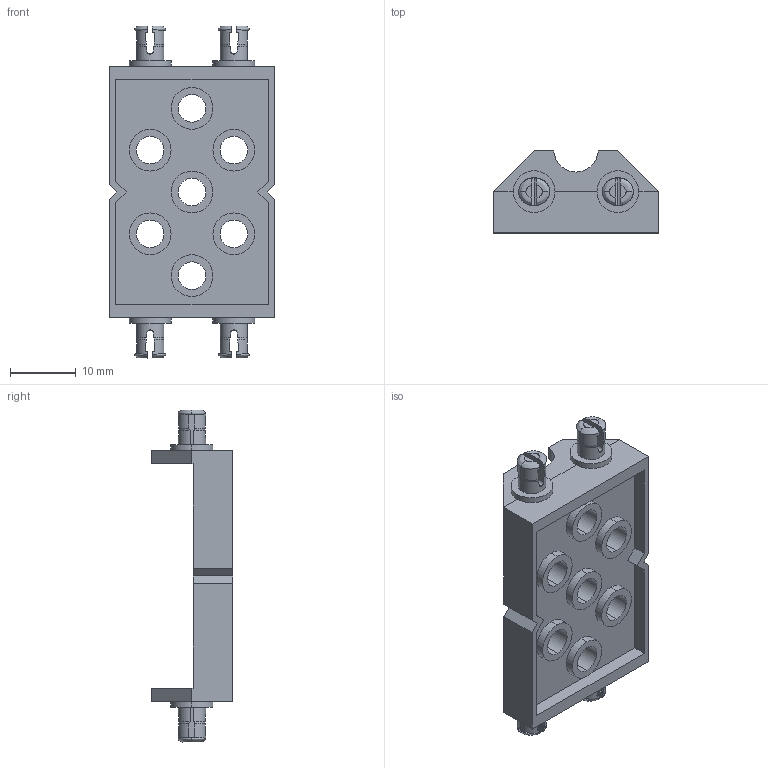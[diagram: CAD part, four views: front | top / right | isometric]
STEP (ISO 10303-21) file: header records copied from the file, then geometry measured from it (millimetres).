
FILE_DESCRIPTION (( 'STEP AP214' ), '1' );
FILE_NAME ('228-2500-277.STEP', '2021-02-18T19:58:53', ( '' ), ( '' ), 'SwSTEP 2.0', 'SolidWorks 2019', '' );
FILE_SCHEMA (( 'AUTOMOTIVE_DESIGN' ));
Length unit declared in the file: millimetre
Products named in the file (1): 228-2500-277
Bounding box: 25.1 x 12.43 x 50.38 mm (x, y, z)
Volume: 3470.9 mm3; surface area: 4651.1 mm2
Topology: 1 solids, 1 shells, 259 faces, 690 edges, 452 vertices
Faces by surface type: plane 111, cylinder 100, bspline 32, cone 16
Entity records: 29042 total; most frequent: CARTESIAN_POINT 22922, ORIENTED_EDGE 1380, DIRECTION 1114, EDGE_CURVE 690, VERTEX_POINT 452, AXIS2_PLACEMENT_3D 404, LINE 306, VECTOR 306
